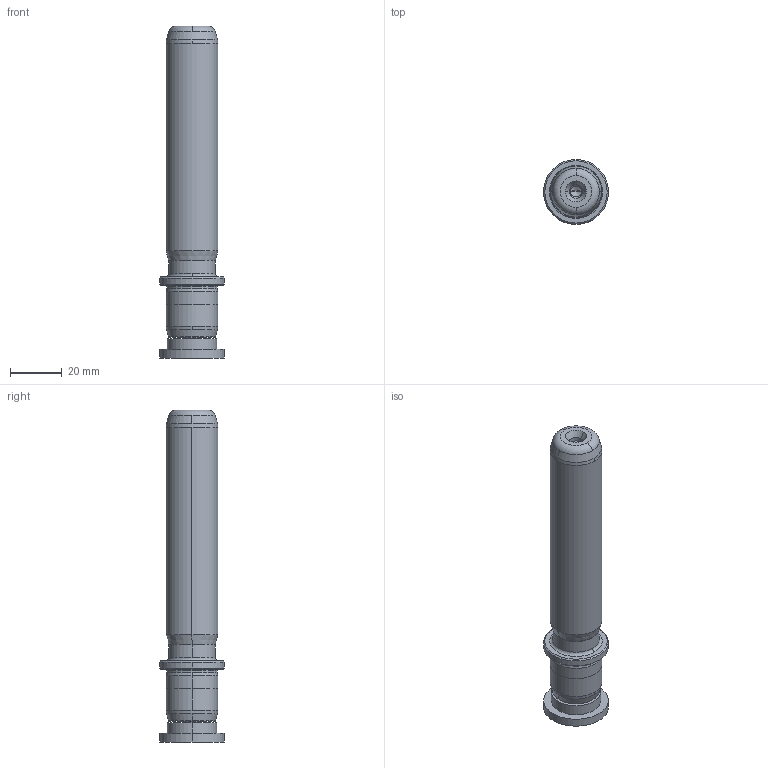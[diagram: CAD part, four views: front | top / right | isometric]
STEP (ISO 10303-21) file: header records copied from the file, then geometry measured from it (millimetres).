
FILE_DESCRIPTION((''),'2;1');
FILE_NAME('P22_020_100.stp','2009-02-02T11:05:55',(''),(''),'Mechanical Desktop 2009','Mechanical Desktop 2009',', , ');
FILE_SCHEMA(('CONFIG_CONTROL_DESIGN'));
Length unit declared in the file: millimetre
Products named in the file (2): Product; blmdl1
Assembly tree (1 placements, depth 2):
  Product
    blmdl1
Bounding box: 25 x 25 x 128 mm (x, y, z)
Volume: 39577.7 mm3; surface area: 10912.6 mm2
Topology: 3 solids, 3 shells, 99 faces, 237 edges, 149 vertices
Faces by surface type: cylinder 32, cone 28, plane 19, bspline 14, torus 6
Entity records: 3579 total; most frequent: CARTESIAN_POINT 1099, DIRECTION 562, ORIENTED_EDGE 466, AXIS2_PLACEMENT_3D 242, EDGE_CURVE 233, CIRCLE 155, VERTEX_POINT 149, EDGE_LOOP 110
